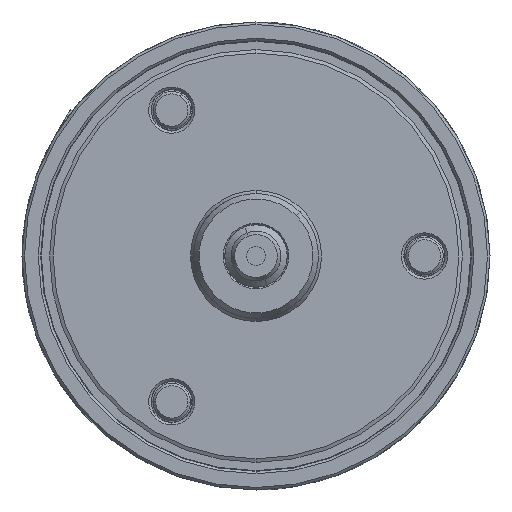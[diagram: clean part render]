
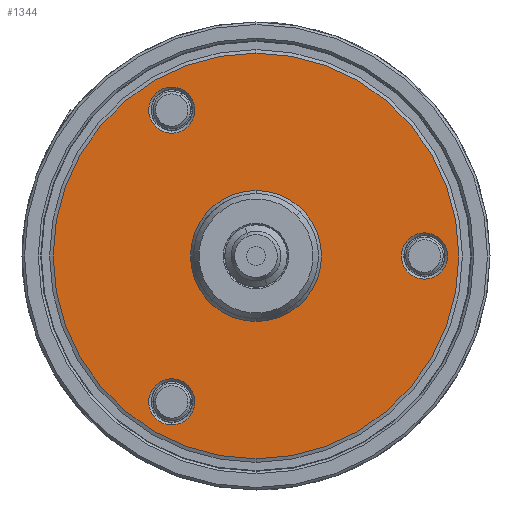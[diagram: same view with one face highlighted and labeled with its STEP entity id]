
A CAD part, left-side view. The second image highlights one B-rep face of the part: STEP entity #1344.
In plain terms, the highlighted planar face has unit normal (-1, 0, 0).
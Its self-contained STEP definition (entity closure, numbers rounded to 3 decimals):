
#244 = CARTESIAN_POINT ( 'NONE',  ( -38., -27., 3.7 ) ) ;
#1344 = ADVANCED_FACE ( 'NONE', ( #33038, #32756, #31362, #32511, #32372 ), #13782, .F. ) ;
#1457 = AXIS2_PLACEMENT_3D ( 'NONE', #33327, #33156, #33129 ) ;
#1753 = AXIS2_PLACEMENT_3D ( 'NONE', #20738, #20712, #20678 ) ;
#2177 = CARTESIAN_POINT ( 'NONE',  ( -38., 13.5, -27.083 ) ) ;
#2653 = DIRECTION ( 'NONE',  ( 0., 0., -1. ) ) ;
#2681 = CIRCLE ( 'NONE', #33228, 3.7 ) ;
#2688 = DIRECTION ( 'NONE',  ( 1., 0., 0. ) ) ;
#2720 = CARTESIAN_POINT ( 'NONE',  ( -38., -27., 0. ) ) ;
#3108 = CARTESIAN_POINT ( 'NONE',  ( -38., 0., 10.5 ) ) ;
#3178 = DIRECTION ( 'NONE',  ( 0., 0., -1. ) ) ;
#3187 = EDGE_LOOP ( 'NONE', ( #29176, #21051 ) ) ;
#3659 = VERTEX_POINT ( 'NONE', #244 ) ;
#3711 = AXIS2_PLACEMENT_3D ( 'NONE', #16953, #16943, #16863 ) ;
#3876 = VERTEX_POINT ( 'NONE', #27936 ) ;
#5131 = CIRCLE ( 'NONE', #1457, 32.5 ) ;
#5161 = AXIS2_PLACEMENT_3D ( 'NONE', #14147, #14103, #14074 ) ;
#5473 = EDGE_CURVE ( 'NONE', #26466, #33597, #22137, .T. ) ;
#5785 = ORIENTED_EDGE ( 'NONE', *, *, #23282, .F. ) ;
#5869 = EDGE_LOOP ( 'NONE', ( #30895, #24984 ) ) ;
#7713 = CIRCLE ( 'NONE', #5161, 3.7 ) ;
#8184 = DIRECTION ( 'NONE',  ( 0., 0., -1. ) ) ;
#8204 = DIRECTION ( 'NONE',  ( 1., 0., 0. ) ) ;
#8210 = CARTESIAN_POINT ( 'NONE',  ( -38., 13.5, 23.383 ) ) ;
#8725 = DIRECTION ( 'NONE',  ( 0., 0., -1. ) ) ;
#8758 = DIRECTION ( 'NONE',  ( 1., 0., 0. ) ) ;
#8795 = CARTESIAN_POINT ( 'NONE',  ( -38., 0., 0. ) ) ;
#9070 = ORIENTED_EDGE ( 'NONE', *, *, #9318, .T. ) ;
#9073 = CIRCLE ( 'NONE', #18468, 3.7 ) ;
#9318 = EDGE_CURVE ( 'NONE', #13238, #33545, #22473, .T. ) ;
#9806 = VERTEX_POINT ( 'NONE', #27793 ) ;
#10549 = EDGE_CURVE ( 'NONE', #9806, #28259, #7713, .T. ) ;
#10833 = CARTESIAN_POINT ( 'NONE',  ( -38., 0., -32.5 ) ) ;
#11274 = DIRECTION ( 'NONE',  ( 0., 0., -1. ) ) ;
#11279 = AXIS2_PLACEMENT_3D ( 'NONE', #8795, #8758, #8725 ) ;
#11309 = DIRECTION ( 'NONE',  ( 1., 0., 0. ) ) ;
#11396 = CARTESIAN_POINT ( 'NONE',  ( -38., -27., 0. ) ) ;
#13159 = DIRECTION ( 'NONE',  ( 1., 0., 0. ) ) ;
#13238 = VERTEX_POINT ( 'NONE', #22035 ) ;
#13481 = DIRECTION ( 'NONE',  ( 0., 0., -1. ) ) ;
#13559 = DIRECTION ( 'NONE',  ( 1., 0., 0. ) ) ;
#13782 = PLANE ( 'NONE',  #20406 ) ;
#14074 = DIRECTION ( 'NONE',  ( 0., 0., -1. ) ) ;
#14103 = DIRECTION ( 'NONE',  ( 1., 0., 0. ) ) ;
#14147 = CARTESIAN_POINT ( 'NONE',  ( -38., 13.5, 23.383 ) ) ;
#14412 = CARTESIAN_POINT ( 'NONE',  ( -38., -32.5, 0. ) ) ;
#14494 = AXIS2_PLACEMENT_3D ( 'NONE', #8210, #8204, #8184 ) ;
#14640 = EDGE_LOOP ( 'NONE', ( #9070, #16558 ) ) ;
#15491 = EDGE_CURVE ( 'NONE', #3876, #18087, #5131, .T. ) ;
#15741 = VERTEX_POINT ( 'NONE', #30342 ) ;
#16558 = ORIENTED_EDGE ( 'NONE', *, *, #26893, .T. ) ;
#16863 = DIRECTION ( 'NONE',  ( 0., 0., -1. ) ) ;
#16943 = DIRECTION ( 'NONE',  ( 1., 0., 0. ) ) ;
#16953 = CARTESIAN_POINT ( 'NONE',  ( -38., 0., 0. ) ) ;
#18036 = EDGE_CURVE ( 'NONE', #15741, #3659, #2681, .T. ) ;
#18087 = VERTEX_POINT ( 'NONE', #10833 ) ;
#18454 = EDGE_CURVE ( 'NONE', #3659, #15741, #23726, .T. ) ;
#18468 = AXIS2_PLACEMENT_3D ( 'NONE', #33523, #33497, #33439 ) ;
#18704 = ORIENTED_EDGE ( 'NONE', *, *, #5473, .T. ) ;
#20406 = AXIS2_PLACEMENT_3D ( 'NONE', #14412, #13559, #13481 ) ;
#20678 = DIRECTION ( 'NONE',  ( 0., 0., -1. ) ) ;
#20712 = DIRECTION ( 'NONE',  ( 1., 0., 0. ) ) ;
#20738 = CARTESIAN_POINT ( 'NONE',  ( -38., 13.5, -23.383 ) ) ;
#21051 = ORIENTED_EDGE ( 'NONE', *, *, #21299, .T. ) ;
#21155 = EDGE_LOOP ( 'NONE', ( #18704, #22201 ) ) ;
#21192 = AXIS2_PLACEMENT_3D ( 'NONE', #28647, #13159, #3178 ) ;
#21299 = EDGE_CURVE ( 'NONE', #28259, #9806, #21470, .T. ) ;
#21470 = CIRCLE ( 'NONE', #14494, 3.7 ) ;
#22035 = CARTESIAN_POINT ( 'NONE',  ( -38., 0., -10.5 ) ) ;
#22137 = CIRCLE ( 'NONE', #1753, 3.7 ) ;
#22163 = EDGE_CURVE ( 'NONE', #33597, #26466, #9073, .T. ) ;
#22201 = ORIENTED_EDGE ( 'NONE', *, *, #22163, .T. ) ;
#22473 = CIRCLE ( 'NONE', #21192, 10.5 ) ;
#23199 = CIRCLE ( 'NONE', #11279, 32.5 ) ;
#23282 = EDGE_CURVE ( 'NONE', #18087, #3876, #23199, .T. ) ;
#23641 = CARTESIAN_POINT ( 'NONE',  ( -38., 13.5, -19.683 ) ) ;
#23726 = CIRCLE ( 'NONE', #24004, 3.7 ) ;
#24004 = AXIS2_PLACEMENT_3D ( 'NONE', #2720, #2688, #2653 ) ;
#24984 = ORIENTED_EDGE ( 'NONE', *, *, #18036, .T. ) ;
#26466 = VERTEX_POINT ( 'NONE', #23641 ) ;
#26893 = EDGE_CURVE ( 'NONE', #33545, #13238, #29349, .T. ) ;
#27793 = CARTESIAN_POINT ( 'NONE',  ( -38., 13.5, 27.083 ) ) ;
#27936 = CARTESIAN_POINT ( 'NONE',  ( -38., 0., 32.5 ) ) ;
#28259 = VERTEX_POINT ( 'NONE', #32746 ) ;
#28647 = CARTESIAN_POINT ( 'NONE',  ( -38., 0., 0. ) ) ;
#29176 = ORIENTED_EDGE ( 'NONE', *, *, #10549, .T. ) ;
#29349 = CIRCLE ( 'NONE', #3711, 10.5 ) ;
#30342 = CARTESIAN_POINT ( 'NONE',  ( -38., -27., -3.7 ) ) ;
#30895 = ORIENTED_EDGE ( 'NONE', *, *, #18454, .T. ) ;
#31245 = EDGE_LOOP ( 'NONE', ( #5785, #31761 ) ) ;
#31362 = FACE_BOUND ( 'NONE', #21155, .T. ) ;
#31761 = ORIENTED_EDGE ( 'NONE', *, *, #15491, .F. ) ;
#32372 = FACE_OUTER_BOUND ( 'NONE', #31245, .T. ) ;
#32511 = FACE_BOUND ( 'NONE', #14640, .T. ) ;
#32746 = CARTESIAN_POINT ( 'NONE',  ( -38., 13.5, 19.683 ) ) ;
#32756 = FACE_BOUND ( 'NONE', #3187, .T. ) ;
#33038 = FACE_BOUND ( 'NONE', #5869, .T. ) ;
#33129 = DIRECTION ( 'NONE',  ( 0., 0., -1. ) ) ;
#33156 = DIRECTION ( 'NONE',  ( 1., 0., 0. ) ) ;
#33228 = AXIS2_PLACEMENT_3D ( 'NONE', #11396, #11309, #11274 ) ;
#33327 = CARTESIAN_POINT ( 'NONE',  ( -38., 0., 0. ) ) ;
#33439 = DIRECTION ( 'NONE',  ( 0., 0., -1. ) ) ;
#33497 = DIRECTION ( 'NONE',  ( 1., 0., 0. ) ) ;
#33523 = CARTESIAN_POINT ( 'NONE',  ( -38., 13.5, -23.383 ) ) ;
#33545 = VERTEX_POINT ( 'NONE', #3108 ) ;
#33597 = VERTEX_POINT ( 'NONE', #2177 ) ;
